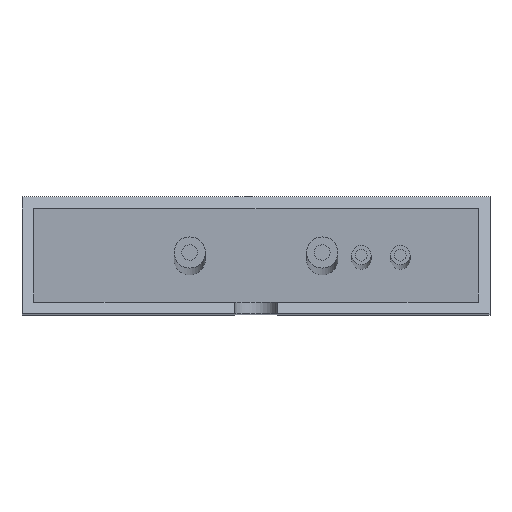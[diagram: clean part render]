
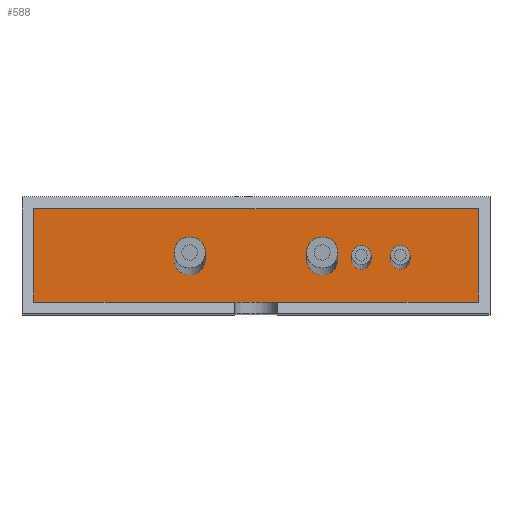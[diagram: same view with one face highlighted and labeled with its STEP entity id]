
A CAD part, top view. The second image highlights one B-rep face of the part: STEP entity #588.
In plain terms, the highlighted planar face has unit normal (0, 0, 1).
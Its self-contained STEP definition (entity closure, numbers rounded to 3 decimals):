
#16=LINE($,#891,#66);
#17=LINE($,#893,#67);
#18=LINE($,#895,#68);
#19=LINE($,#896,#69);
#66=VECTOR($,#740,57.);
#67=VECTOR($,#741,12.);
#68=VECTOR($,#742,57.);
#69=VECTOR($,#743,12.);
#121=PLANE($,#643);
#154=FACE_BOUND($,#219,.T.);
#155=FACE_BOUND($,#220,.T.);
#156=FACE_BOUND($,#221,.T.);
#157=FACE_BOUND($,#222,.T.);
#158=FACE_BOUND($,#223,.T.);
#219=EDGE_LOOP($,(#416));
#220=EDGE_LOOP($,(#417));
#221=EDGE_LOOP($,(#418));
#222=EDGE_LOOP($,(#419));
#223=EDGE_LOOP($,(#420,#421,#422,#423));
#245=CIRCLE($,#616,1.25);
#249=CIRCLE($,#624,1.25);
#253=CIRCLE($,#632,2.);
#257=CIRCLE($,#640,2.);
#265=VERTEX_POINT($,#840);
#269=VERTEX_POINT($,#852);
#273=VERTEX_POINT($,#864);
#277=VERTEX_POINT($,#876);
#282=VERTEX_POINT($,#889);
#283=VERTEX_POINT($,#890);
#284=VERTEX_POINT($,#892);
#285=VERTEX_POINT($,#894);
#317=EDGE_CURVE($,#265,#265,#245,.T.);
#321=EDGE_CURVE($,#269,#269,#249,.T.);
#325=EDGE_CURVE($,#273,#273,#253,.T.);
#329=EDGE_CURVE($,#277,#277,#257,.T.);
#334=EDGE_CURVE($,#282,#283,#16,.T.);
#335=EDGE_CURVE($,#284,#282,#17,.T.);
#336=EDGE_CURVE($,#285,#284,#18,.T.);
#337=EDGE_CURVE($,#283,#285,#19,.T.);
#416=ORIENTED_EDGE($,*,*,#317,.T.);
#417=ORIENTED_EDGE($,*,*,#321,.T.);
#418=ORIENTED_EDGE($,*,*,#325,.T.);
#419=ORIENTED_EDGE($,*,*,#329,.T.);
#420=ORIENTED_EDGE($,*,*,#334,.F.);
#421=ORIENTED_EDGE($,*,*,#335,.F.);
#422=ORIENTED_EDGE($,*,*,#336,.F.);
#423=ORIENTED_EDGE($,*,*,#337,.F.);
#588=ADVANCED_FACE($,(#154,#155,#156,#157,#158),#121,.T.);
#616=AXIS2_PLACEMENT_3D($,#841,#680,#681);
#624=AXIS2_PLACEMENT_3D($,#853,#696,#697);
#632=AXIS2_PLACEMENT_3D($,#865,#712,#713);
#640=AXIS2_PLACEMENT_3D($,#877,#728,#729);
#643=AXIS2_PLACEMENT_3D($,#888,#738,#739);
#680=DIRECTION('center_axis',(0.,0.,
-1.));
#681=DIRECTION('ref_axis',(-1.,0.,0.));
#696=DIRECTION('center_axis',(0.,0.,
-1.));
#697=DIRECTION('ref_axis',(-1.,0.,0.));
#712=DIRECTION('center_axis',(0.,0.,
-1.));
#713=DIRECTION('ref_axis',(-1.,0.,0.));
#728=DIRECTION('center_axis',(0.,0.,
-1.));
#729=DIRECTION('ref_axis',(-1.,0.,0.));
#738=DIRECTION('center_axis',(0.,0.,
1.));
#739=DIRECTION('ref_axis',(1.,0.,0.));
#740=DIRECTION($,(1.,0.,0.));
#741=DIRECTION($,(0.,1.,0.));
#742=DIRECTION($,(-1.,0.,0.));
#743=DIRECTION($,(0.,-1.,0.));
#840=CARTESIAN_POINT('',(21.172,3.909,65.773));
#841=CARTESIAN_POINT('Origin',(19.922,3.909,65.773));
#852=CARTESIAN_POINT('',(26.172,3.909,65.773));
#853=CARTESIAN_POINT('Origin',(24.922,3.909,65.773));
#864=CARTESIAN_POINT('',(-0.078,3.909,65.773));
#865=CARTESIAN_POINT('Origin',(-2.078,3.909,65.773));
#876=CARTESIAN_POINT('',(16.922,3.909,65.773));
#877=CARTESIAN_POINT('Origin',(14.922,3.909,65.773));
#888=CARTESIAN_POINT('Origin',(6.422,4.409,65.773));
#889=CARTESIAN_POINT('',(-22.078,10.409,65.773));
#890=CARTESIAN_POINT('',(34.922,10.409,65.773));
#891=CARTESIAN_POINT($,(21.422,10.409,65.773));
#892=CARTESIAN_POINT('',(-22.078,-1.591,65.773));
#893=CARTESIAN_POINT($,(-22.078,8.159,65.773));
#894=CARTESIAN_POINT('',(34.922,-1.591,65.773));
#895=CARTESIAN_POINT($,(-8.578,-1.591,65.773));
#896=CARTESIAN_POINT($,(34.922,0.659,65.773));
